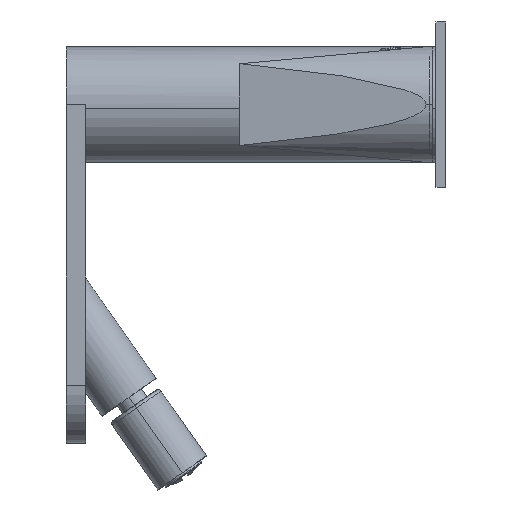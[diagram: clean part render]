
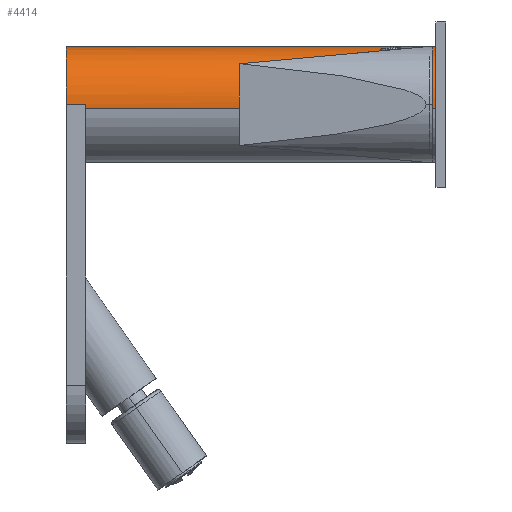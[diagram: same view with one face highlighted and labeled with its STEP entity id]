
A CAD part, left-side view. The second image highlights one B-rep face of the part: STEP entity #4414.
In plain terms, the highlighted cylindrical face has radius 17.5 mm (diameter 35 mm), a partial arc.
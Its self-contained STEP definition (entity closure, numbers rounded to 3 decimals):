
#146=CARTESIAN_POINT('',(0.,-4.,0.));
#147=DIRECTION('',(0.,1.,0.));
#148=DIRECTION('',(-0.998,0.,-0.063));
#149=AXIS2_PLACEMENT_3D('',#146,#147,#148);
#233=CARTESIAN_POINT('',(0.,-110.,0.));
#234=DIRECTION('',(0.,1.,0.));
#235=DIRECTION('',(-0.998,0.,-0.063));
#236=AXIS2_PLACEMENT_3D('',#233,#234,#235);
#238=CARTESIAN_POINT('',(0.,-4.,0.));
#239=DIRECTION('',(0.,1.,0.));
#240=DIRECTION('',(0.998,0.,0.063));
#241=AXIS2_PLACEMENT_3D('',#238,#239,#240);
#296=DIRECTION('',(0.,-1.,0.));
#297=VECTOR('',#296,106.);
#298=CARTESIAN_POINT('',(17.466,-4.,1.097));
#299=LINE('',#298,#297);
#300=DIRECTION('',(0.,-1.,0.));
#301=VECTOR('',#300,106.);
#302=CARTESIAN_POINT('',(-17.466,-4.,-1.097));
#303=LINE('',#302,#301);
#308=DIRECTION('',(0.,-1.,0.));
#309=VECTOR('',#308,6.);
#310=CARTESIAN_POINT('',(-17.5,2.,0.));
#311=LINE('',#310,#309);
#316=DIRECTION('',(0.,1.,0.));
#317=VECTOR('',#316,6.);
#318=CARTESIAN_POINT('',(17.5,-4.,0.));
#319=LINE('',#318,#317);
#320=CARTESIAN_POINT('',(0.,2.,0.));
#321=DIRECTION('',(0.,1.,0.));
#322=DIRECTION('',(-1.,0.,0.));
#323=AXIS2_PLACEMENT_3D('',#320,#321,#322);
#3345=CARTESIAN_POINT('',(-17.5,2.,0.));
#3346=CARTESIAN_POINT('',(17.5,2.,0.));
#3347=VERTEX_POINT('',#3345);
#3348=VERTEX_POINT('',#3346);
#3363=CARTESIAN_POINT('',(17.466,-4.,1.097));
#3364=CARTESIAN_POINT('',(17.5,-4.,0.));
#3365=VERTEX_POINT('',#3363);
#3366=VERTEX_POINT('',#3364);
#3367=CARTESIAN_POINT('',(-17.466,-4.,-1.097));
#3368=CARTESIAN_POINT('',(-17.5,-4.,0.));
#3369=VERTEX_POINT('',#3367);
#3370=VERTEX_POINT('',#3368);
#3387=CARTESIAN_POINT('',(-17.466,-110.,-1.097));
#3388=CARTESIAN_POINT('',(17.466,-110.,1.097));
#3389=VERTEX_POINT('',#3387);
#3390=VERTEX_POINT('',#3388);
#4392=CARTESIAN_POINT('',(0.,0.,0.));
#4393=DIRECTION('',(0.,1.,0.));
#4394=DIRECTION('',(0.,0.,-1.));
#4395=AXIS2_PLACEMENT_3D('',#4392,#4393,#4394);
#4396=CYLINDRICAL_SURFACE('',#4395,17.5);
#4398=ORIENTED_EDGE('',*,*,#4397,.F.);
#4400=ORIENTED_EDGE('',*,*,#4399,.F.);
#4401=ORIENTED_EDGE('',*,*,#4374,.T.);
#4403=ORIENTED_EDGE('',*,*,#4402,.F.);
#4405=ORIENTED_EDGE('',*,*,#4404,.T.);
#4407=ORIENTED_EDGE('',*,*,#4406,.F.);
#4409=ORIENTED_EDGE('',*,*,#4408,.F.);
#4411=ORIENTED_EDGE('',*,*,#4410,.T.);
#4412=EDGE_LOOP('',(#4398,#4400,#4401,#4403,#4405,#4407,#4409,#4411));
#4413=FACE_OUTER_BOUND('',#4412,.F.);
#4414=ADVANCED_FACE('',(#4413),#4396,.T.);
#150=CIRCLE('',#149,17.5);
#237=CIRCLE('',#236,17.5);
#242=CIRCLE('',#241,17.5);
#324=CIRCLE('',#323,17.5);
#4374=EDGE_CURVE('',#3369,#3370,#150,.T.);
#4397=EDGE_CURVE('',#3389,#3390,#237,.T.);
#4399=EDGE_CURVE('',#3369,#3389,#303,.T.);
#4402=EDGE_CURVE('',#3347,#3370,#311,.T.);
#4404=EDGE_CURVE('',#3347,#3348,#324,.T.);
#4406=EDGE_CURVE('',#3366,#3348,#319,.T.);
#4408=EDGE_CURVE('',#3365,#3366,#242,.T.);
#4410=EDGE_CURVE('',#3365,#3390,#299,.T.);
